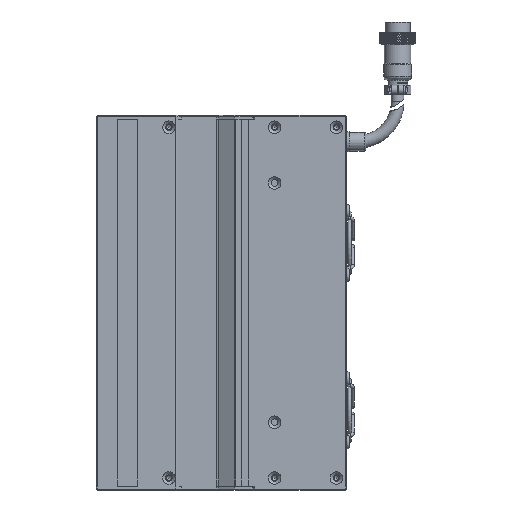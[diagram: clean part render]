
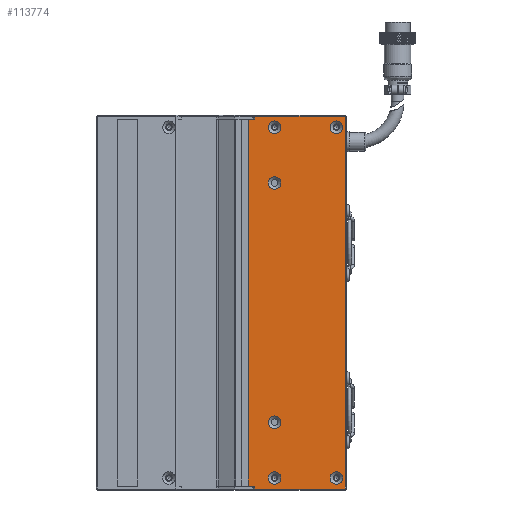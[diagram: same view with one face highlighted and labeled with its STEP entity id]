
A CAD part, left-side view. The second image highlights one B-rep face of the part: STEP entity #113774.
In plain terms, the highlighted planar face has unit normal (-1, 0, 0).
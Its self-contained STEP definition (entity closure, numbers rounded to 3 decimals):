
#897 = CIRCLE ( 'NONE', #44847, 3.15 ) ;
#1239 = CARTESIAN_POINT ( 'NONE',  ( -24.998, -26.5, -93.5 ) ) ;
#1425 = CIRCLE ( 'NONE', #54577, 3.15 ) ;
#2269 = VECTOR ( 'NONE', #25721, 1000. ) ;
#3580 = FACE_BOUND ( 'NONE', #52096, .T. ) ;
#4979 = DIRECTION ( 'NONE',  ( 0., 0., 1. ) ) ;
#6381 = LINE ( 'NONE', #26253, #99618 ) ;
#6745 = LINE ( 'NONE', #84691, #2269 ) ;
#6861 = VERTEX_POINT ( 'NONE', #23463 ) ;
#7040 = DIRECTION ( 'NONE',  ( 0., 0., 1. ) ) ;
#7323 = EDGE_LOOP ( 'NONE', ( #63080 ) ) ;
#8178 = CIRCLE ( 'NONE', #17354, 3.15 ) ;
#9028 = AXIS2_PLACEMENT_3D ( 'NONE', #104877, #85198, #76170 ) ;
#11292 = EDGE_CURVE ( 'NONE', #40738, #53377, #25185, .T. ) ;
#11942 = CARTESIAN_POINT ( 'NONE',  ( -24.998, -36.5, -84.85 ) ) ;
#16425 = VERTEX_POINT ( 'NONE', #17427 ) ;
#17354 = AXIS2_PLACEMENT_3D ( 'NONE', #45937, #95105, #104917 ) ;
#17427 = CARTESIAN_POINT ( 'NONE',  ( -24.998, -26.5, 93.5 ) ) ;
#17646 = EDGE_LOOP ( 'NONE', ( #62771, #102289, #38106, #78583, #78053, #25499, #106870, #109957 ) ) ;
#18236 = EDGE_CURVE ( 'NONE', #56431, #56431, #8178, .T. ) ;
#20639 = EDGE_LOOP ( 'NONE', ( #54539 ) ) ;
#23463 = CARTESIAN_POINT ( 'NONE',  ( -24.998, -23.25, 92. ) ) ;
#25185 = LINE ( 'NONE', #53694, #103222 ) ;
#25249 = CIRCLE ( 'NONE', #42050, 3.15 ) ;
#25499 = ORIENTED_EDGE ( 'NONE', *, *, #51845, .T. ) ;
#25721 = DIRECTION ( 'NONE',  ( 0., 0., -1. ) ) ;
#26253 = CARTESIAN_POINT ( 'NONE',  ( -24.998, -72.5, 93.5 ) ) ;
#28627 = VECTOR ( 'NONE', #47409, 1000. ) ;
#28656 = ORIENTED_EDGE ( 'NONE', *, *, #18236, .F. ) ;
#29626 = VERTEX_POINT ( 'NONE', #109501 ) ;
#30197 = VERTEX_POINT ( 'NONE', #93460 ) ;
#30616 = DIRECTION ( 'NONE',  ( 0., 0., -1. ) ) ;
#31218 = CARTESIAN_POINT ( 'NONE',  ( -24.998, -36.5, 60. ) ) ;
#32019 = CARTESIAN_POINT ( 'NONE',  ( -24.998, -26.5, -92. ) ) ;
#32583 = DIRECTION ( 'NONE',  ( -1., 0., 0. ) ) ;
#32734 = CARTESIAN_POINT ( 'NONE',  ( -24.998, -67.5, 91.15 ) ) ;
#35445 = DIRECTION ( 'NONE',  ( 0., 1., 0. ) ) ;
#38106 = ORIENTED_EDGE ( 'NONE', *, *, #91005, .F. ) ;
#38333 = EDGE_CURVE ( 'NONE', #45174, #96899, #108658, .T. ) ;
#40034 = DIRECTION ( 'NONE',  ( 0., -1., 0. ) ) ;
#40738 = VERTEX_POINT ( 'NONE', #1239 ) ;
#41250 = CARTESIAN_POINT ( 'NONE',  ( -24.998, -72.5, -92. ) ) ;
#42050 = AXIS2_PLACEMENT_3D ( 'NONE', #112136, #32583, #4979 ) ;
#44034 = VERTEX_POINT ( 'NONE', #52874 ) ;
#44847 = AXIS2_PLACEMENT_3D ( 'NONE', #116362, #125779, #95431 ) ;
#45174 = VERTEX_POINT ( 'NONE', #104257 ) ;
#45937 = CARTESIAN_POINT ( 'NONE',  ( -24.998, -36.5, -88. ) ) ;
#46876 = CARTESIAN_POINT ( 'NONE',  ( -24.998, -67.5, -84.85 ) ) ;
#46983 = CARTESIAN_POINT ( 'NONE',  ( -24.998, -23.25, -92. ) ) ;
#47398 = EDGE_CURVE ( 'NONE', #73090, #73090, #123054, .T. ) ;
#47409 = DIRECTION ( 'NONE',  ( 0., 0., 1. ) ) ;
#49021 = CARTESIAN_POINT ( 'NONE',  ( -24.998, -36.5, 91.15 ) ) ;
#51115 = PLANE ( 'NONE',  #65460 ) ;
#51193 = CARTESIAN_POINT ( 'NONE',  ( -24.998, -23.25, -92. ) ) ;
#51664 = ORIENTED_EDGE ( 'NONE', *, *, #118662, .F. ) ;
#51845 = EDGE_CURVE ( 'NONE', #16425, #29626, #6745, .T. ) ;
#52096 = EDGE_LOOP ( 'NONE', ( #84352 ) ) ;
#52874 = CARTESIAN_POINT ( 'NONE',  ( -24.998, -36.5, -56.85 ) ) ;
#53377 = VERTEX_POINT ( 'NONE', #32019 ) ;
#53694 = CARTESIAN_POINT ( 'NONE',  ( -24.998, -26.5, -85. ) ) ;
#54539 = ORIENTED_EDGE ( 'NONE', *, *, #74833, .F. ) ;
#54577 = AXIS2_PLACEMENT_3D ( 'NONE', #55181, #123591, #112485 ) ;
#55181 = CARTESIAN_POINT ( 'NONE',  ( -24.998, -36.5, -60. ) ) ;
#55432 = FACE_OUTER_BOUND ( 'NONE', #17646, .T. ) ;
#56431 = VERTEX_POINT ( 'NONE', #11942 ) ;
#57642 = VERTEX_POINT ( 'NONE', #49021 ) ;
#58985 = LINE ( 'NONE', #41250, #77242 ) ;
#59445 = EDGE_CURVE ( 'NONE', #44034, #44034, #1425, .T. ) ;
#59568 = ORIENTED_EDGE ( 'NONE', *, *, #59445, .F. ) ;
#62771 = ORIENTED_EDGE ( 'NONE', *, *, #65096, .T. ) ;
#63080 = ORIENTED_EDGE ( 'NONE', *, *, #47398, .F. ) ;
#65096 = EDGE_CURVE ( 'NONE', #76822, #53377, #58985, .T. ) ;
#65460 = AXIS2_PLACEMENT_3D ( 'NONE', #79727, #69514, #30616 ) ;
#69105 = CARTESIAN_POINT ( 'NONE',  ( -24.998, -72.5, 92. ) ) ;
#69175 = FACE_BOUND ( 'NONE', #114241, .T. ) ;
#69514 = DIRECTION ( 'NONE',  ( 1., 0., 0. ) ) ;
#70745 = FACE_BOUND ( 'NONE', #96231, .T. ) ;
#73090 = VERTEX_POINT ( 'NONE', #32734 ) ;
#74833 = EDGE_CURVE ( 'NONE', #108200, #108200, #897, .T. ) ;
#74865 = LINE ( 'NONE', #69105, #97874 ) ;
#76170 = DIRECTION ( 'NONE',  ( 0., 0., 1. ) ) ;
#76822 = VERTEX_POINT ( 'NONE', #51193 ) ;
#77209 = AXIS2_PLACEMENT_3D ( 'NONE', #31218, #91928, #101754 ) ;
#77242 = VECTOR ( 'NONE', #109641, 1000. ) ;
#78053 = ORIENTED_EDGE ( 'NONE', *, *, #123977, .T. ) ;
#78583 = ORIENTED_EDGE ( 'NONE', *, *, #38333, .T. ) ;
#79727 = CARTESIAN_POINT ( 'NONE',  ( -24.998, -72.5, 92. ) ) ;
#81917 = EDGE_CURVE ( 'NONE', #6861, #29626, #74865, .T. ) ;
#82622 = VECTOR ( 'NONE', #7040, 1000. ) ;
#82722 = DIRECTION ( 'NONE',  ( 0., 0., 1. ) ) ;
#84352 = ORIENTED_EDGE ( 'NONE', *, *, #104434, .F. ) ;
#84691 = CARTESIAN_POINT ( 'NONE',  ( -24.998, -26.5, 85. ) ) ;
#85198 = DIRECTION ( 'NONE',  ( -1., 0., 0. ) ) ;
#86297 = CARTESIAN_POINT ( 'NONE',  ( -24.998, -72., 93.5 ) ) ;
#87370 = LINE ( 'NONE', #93628, #117928 ) ;
#87567 = FACE_BOUND ( 'NONE', #123317, .T. ) ;
#91005 = EDGE_CURVE ( 'NONE', #45174, #40738, #87370, .T. ) ;
#91928 = DIRECTION ( 'NONE',  ( -1., 0., 0. ) ) ;
#93460 = CARTESIAN_POINT ( 'NONE',  ( -24.998, -36.5, 63.15 ) ) ;
#93628 = CARTESIAN_POINT ( 'NONE',  ( -24.998, -72.5, -93.5 ) ) ;
#94147 = CARTESIAN_POINT ( 'NONE',  ( -24.998, -72., 92. ) ) ;
#95105 = DIRECTION ( 'NONE',  ( -1., 0., 0. ) ) ;
#95431 = DIRECTION ( 'NONE',  ( 0., 0., 1. ) ) ;
#96231 = EDGE_LOOP ( 'NONE', ( #28656 ) ) ;
#96781 = FACE_BOUND ( 'NONE', #20639, .T. ) ;
#96899 = VERTEX_POINT ( 'NONE', #86297 ) ;
#97874 = VECTOR ( 'NONE', #40034, 1000. ) ;
#99618 = VECTOR ( 'NONE', #123738, 1000. ) ;
#101754 = DIRECTION ( 'NONE',  ( 0., 0., 1. ) ) ;
#102289 = ORIENTED_EDGE ( 'NONE', *, *, #11292, .F. ) ;
#103222 = VECTOR ( 'NONE', #82722, 1000. ) ;
#104257 = CARTESIAN_POINT ( 'NONE',  ( -24.998, -72., -93.5 ) ) ;
#104434 = EDGE_CURVE ( 'NONE', #30197, #30197, #106664, .T. ) ;
#104654 = EDGE_CURVE ( 'NONE', #76822, #6861, #109729, .T. ) ;
#104877 = CARTESIAN_POINT ( 'NONE',  ( -24.998, -67.5, 88. ) ) ;
#104917 = DIRECTION ( 'NONE',  ( 0., 0., 1. ) ) ;
#106664 = CIRCLE ( 'NONE', #77209, 3.15 ) ;
#106870 = ORIENTED_EDGE ( 'NONE', *, *, #81917, .F. ) ;
#108200 = VERTEX_POINT ( 'NONE', #46876 ) ;
#108658 = LINE ( 'NONE', #94147, #82622 ) ;
#109501 = CARTESIAN_POINT ( 'NONE',  ( -24.998, -26.5, 92. ) ) ;
#109641 = DIRECTION ( 'NONE',  ( 0., -1., 0. ) ) ;
#109729 = LINE ( 'NONE', #46983, #28627 ) ;
#109957 = ORIENTED_EDGE ( 'NONE', *, *, #104654, .F. ) ;
#112136 = CARTESIAN_POINT ( 'NONE',  ( -24.998, -36.5, 88. ) ) ;
#112485 = DIRECTION ( 'NONE',  ( 0., 0., 1. ) ) ;
#113774 = ADVANCED_FACE ( 'NONE', ( #96781, #70745, #69175, #118139, #87567, #3580, #55432 ), #51115, .F. ) ;
#114241 = EDGE_LOOP ( 'NONE', ( #51664 ) ) ;
#116362 = CARTESIAN_POINT ( 'NONE',  ( -24.998, -67.5, -88. ) ) ;
#117928 = VECTOR ( 'NONE', #35445, 1000. ) ;
#118139 = FACE_BOUND ( 'NONE', #7323, .T. ) ;
#118662 = EDGE_CURVE ( 'NONE', #57642, #57642, #25249, .T. ) ;
#123054 = CIRCLE ( 'NONE', #9028, 3.15 ) ;
#123317 = EDGE_LOOP ( 'NONE', ( #59568 ) ) ;
#123591 = DIRECTION ( 'NONE',  ( -1., 0., 0. ) ) ;
#123738 = DIRECTION ( 'NONE',  ( 0., 1., 0. ) ) ;
#123977 = EDGE_CURVE ( 'NONE', #96899, #16425, #6381, .T. ) ;
#125779 = DIRECTION ( 'NONE',  ( -1., 0., 0. ) ) ;
